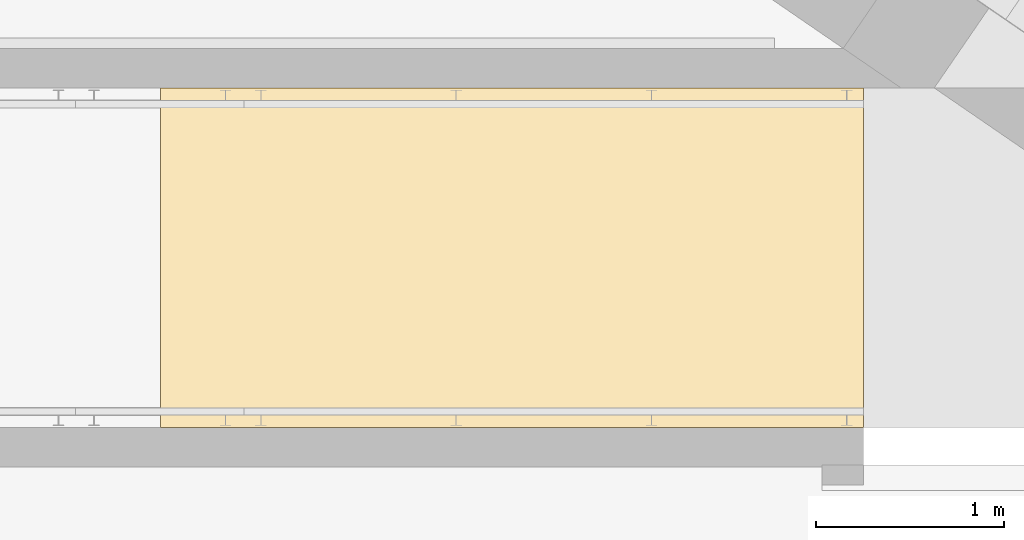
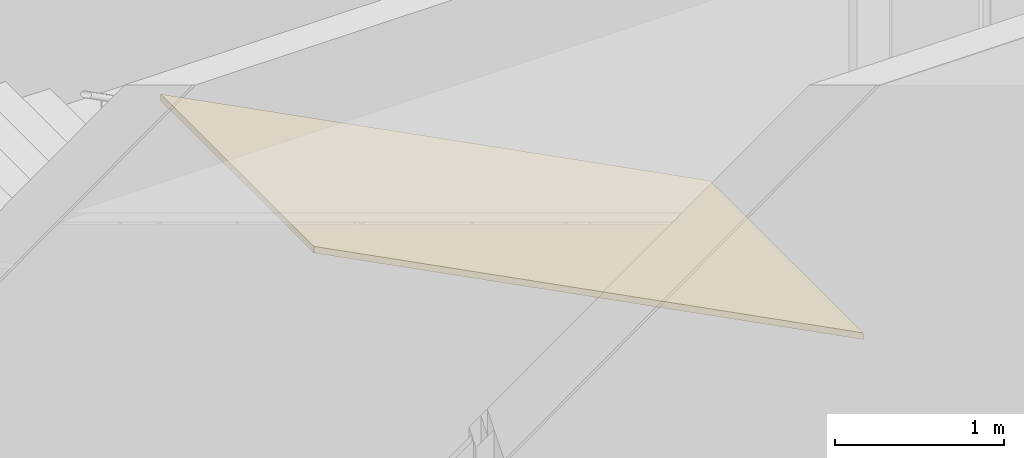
# One storey, part 62 of 79: 1 covering, 3 openings.
"""IFC2X3 building model written with IfcOpenShell, lengths in millimetres."""

from ifc_helpers import new_model, entity, si_unit, converted_unit, derived_unit, money_unit, direction, frame, origin_with_axes, place, context, subcontext, project, spatial, faceted_brep, material, type_object, element, save


model = new_model("IFC2X3")

# Units and contexts
model_context = context("Model", 3, precision=0.01, world=origin_with_axes(), true_north=direction((0.0, 1.0)))
body_context = subcontext(model_context, "Body", "Model", "MODEL_VIEW")
ifc_project = project(units=[si_unit("LENGTHUNIT", "METRE", prefix="MILLI"), si_unit("AREAUNIT", "SQUARE_METRE"), si_unit("VOLUMEUNIT", "CUBIC_METRE"), converted_unit("PLANEANGLEUNIT", "DEGREE", entity("IfcPlaneAngleMeasure", 0.0174532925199), si_unit("PLANEANGLEUNIT", "RADIAN"), dimensions=[0, 0, 0, 0, 0, 0, 0]), si_unit("SOLIDANGLEUNIT", "STERADIAN"), money_unit("EUR"), converted_unit("TIMEUNIT", "Year", entity("IfcTimeMeasure", 31556926.0), si_unit("TIMEUNIT", "SECOND"), dimensions=[0, 0, 1, 0, 0, 0, 0]), si_unit("MASSUNIT", "GRAM", prefix="KILO"), si_unit("THERMODYNAMICTEMPERATUREUNIT", "DEGREE_CELSIUS"), si_unit("LUMINOUSINTENSITYUNIT", "LUMEN"), si_unit("ENERGYUNIT", "JOULE", prefix="MEGA"), derived_unit("THERMALCONDUCTANCEUNIT", [(si_unit("POWERUNIT", "WATT"), 1), (si_unit("LENGTHUNIT", "METRE"), -1), (si_unit("THERMODYNAMICTEMPERATUREUNIT", "KELVIN"), -1)]), derived_unit("SPECIFICHEATCAPACITYUNIT", [(si_unit("ENERGYUNIT", "JOULE"), 1), (si_unit("MASSUNIT", "GRAM", prefix="KILO"), -1), (si_unit("THERMODYNAMICTEMPERATUREUNIT", "KELVIN"), -1)]), derived_unit("MASSDENSITYUNIT", [(si_unit("MASSUNIT", "GRAM", prefix="KILO"), 1), (si_unit("VOLUMEUNIT", "CUBIC_METRE"), -1)])], contexts=[model_context])

# Site, building, storey
site_placement = place(None, origin_with_axes())
site = spatial("IfcSite", under=ifc_project, at=site_placement, Name="L.Koidula tn 11b", CompositionType="ELEMENT")
building_placement = place(site_placement, origin_with_axes())
building = spatial("IfcBuilding", under=site, at=building_placement, Name="Rakvere Riigigümnaasium", CompositionType="ELEMENT")
storey_placement = place(building_placement, frame((0.0, 0.0, 3720.0), z_axis=(0.0, 0.0, 1.0), x_axis=(1.0, 0.0, 0.0)))
storey = spatial("IfcBuildingStorey", under=building, at=storey_placement, Name="2.korrus +3,72", CompositionType="ELEMENT", Elevation=3720.0)

# Covering, openings
ifc_material = material(Name="Krohv akustiline")
covering_type = type_object("IfcCoveringType", Name="Krohv akustiline 42", PredefinedType="CEILING")
covering_placement = place(storey_placement, frame((81844.611985, 16909.096188, 1662.72527345), z_axis=(0.0, 0.0, 1.0), x_axis=(2.35970032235e-08, -1.0, 0.0)))
covering = element("IfcCovering", 1, at=covering_placement, inside=storey, type_object=covering_type, material=ifc_material, Name="L-06", PredefinedType="CEILING", context=body_context, shape_type="Brep", body=[
    faceted_brep([(-201.360120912, -0.000221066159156, 47.274737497), (1608.65972085, 0.000221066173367, 47.2745090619), (1608.65980923, 3745.38796584, -1887.84250517), (-201.360032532, 3745.38800855, -1887.84252724), (-201.360120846, -0.00022141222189, 0.00011398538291), (1608.6597215, 0.000221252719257, -0.00011472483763), (1608.65980998, 3745.38796616, -1935.11712903), (-201.36003237, 3745.38800836, -1935.11715083)], [[[0, 1, 2, 3]], [[1, 0, 4, 5]], [[2, 1, 5, 6]], [[3, 2, 6, 7]], [[0, 3, 7, 4]], [[5, 4, 7, 6]]]),
])
opening_1_placement = place(covering_placement, frame((866.213159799, 16442.5261855, 2080.98615203), z_axis=(0.0, 0.0, 1.0), x_axis=(1.0, 0.0, 0.0)))
element("IfcOpeningElement", 2, at=opening_1_placement, cuts=covering, Name="Ava ripplaes", context=body_context, shape_type="Brep", body=[
    faceted_brep([(600.172309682, -1193.2350934, -1536.29659563), (-599.827677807, -1193.40837368, -1536.29659563), (-599.826462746, -1201.82291488, -1616.35560821), (600.173524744, -1201.6496346, -1616.35560821), (599.999978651, 0.191168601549, -1661.73075155), (-600.000008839, 0.0178883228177, -1661.73075155), (-599.998793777, -8.3966528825, -1741.78976413), (600.001193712, -8.22337260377, -1741.78976413)], [[[0, 1, 2, 3]], [[0, 4, 5, 1]], [[1, 5, 6, 2]], [[3, 2, 6, 7]], [[4, 0, 3, 7]], [[5, 4, 7, 6]]]),
])
opening_2_placement = place(covering_placement, frame((866.212906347, 5701.68789065, 3209.89373534), z_axis=(0.0, 0.0, 1.0), x_axis=(1.0, 0.0, 0.0)))
element("IfcOpeningElement", 3, at=opening_2_placement, cuts=covering, Name="Ava ripplaes", context=body_context, shape_type="Brep", body=[
    faceted_brep([(600.172309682, -1193.2350934, -1536.29659563), (-599.827677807, -1193.40837368, -1536.29659563), (-599.826462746, -1201.82291488, -1616.35560821), (600.173524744, -1201.6496346, -1616.35560821), (599.999978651, 0.191168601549, -1661.73075155), (-600.000008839, 0.0178883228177, -1661.73075155), (-599.998793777, -8.3966528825, -1741.78976413), (600.001193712, -8.22337260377, -1741.78976413)], [[[0, 1, 2, 3]], [[0, 4, 5, 1]], [[1, 5, 6, 2]], [[3, 2, 6, 7]], [[4, 0, 3, 7]], [[5, 4, 7, 6]]]),
])
opening_3_placement = place(covering_placement, frame((866.040969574, 23603.0848335, 1328.38111649), z_axis=(0.0, 0.0, 1.0), x_axis=(1.0, 0.0, 0.0)))
element("IfcOpeningElement", 4, at=opening_3_placement, cuts=covering, Name="Ava ripplaes", context=body_context, shape_type="Brep", body=[
    faceted_brep([(600.172309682, -1193.2350934, -1536.29659563), (-599.827677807, -1193.40837368, -1536.29659563), (-599.826462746, -1201.82291488, -1616.35560821), (600.173524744, -1201.6496346, -1616.35560821), (599.999978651, 0.191168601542, -1661.73075155), (-600.000008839, 0.0178883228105, -1661.73075155), (-599.998793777, -8.39665288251, -1741.78976413), (600.001193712, -8.22337260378, -1741.78976413)], [[[0, 1, 2, 3]], [[0, 4, 5, 1]], [[1, 5, 6, 2]], [[3, 2, 6, 7]], [[4, 0, 3, 7]], [[5, 4, 7, 6]]]),
])

save(model, "model.ifc")
